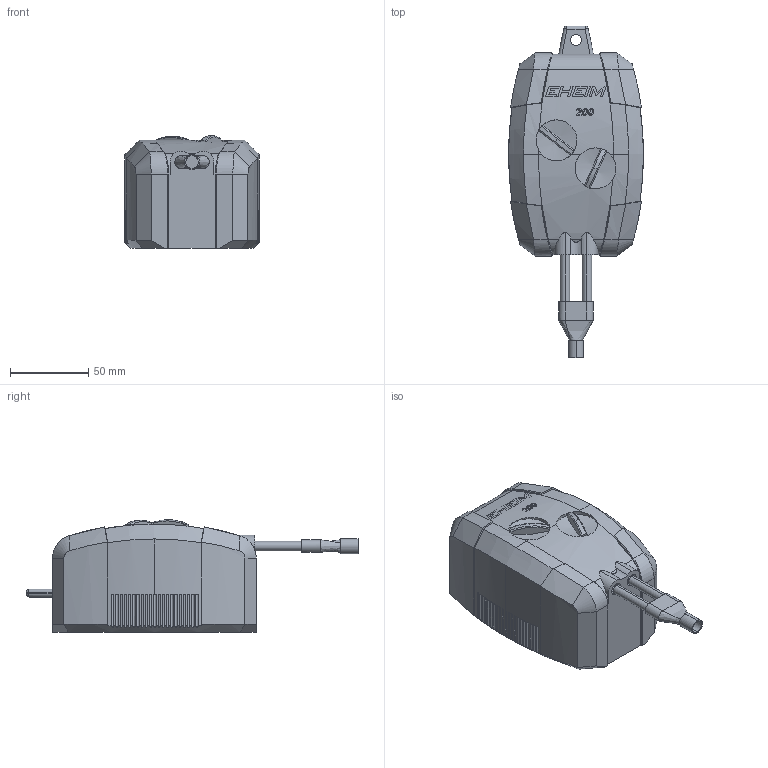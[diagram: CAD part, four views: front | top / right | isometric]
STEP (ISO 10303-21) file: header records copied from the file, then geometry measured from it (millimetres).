
FILE_DESCRIPTION (( 'STEP AP214' ), '1' );
FILE_NAME ('air pump aquarium.STEP', '2020-03-29T17:29:44', ( '' ), ( '' ), 'SwSTEP 2.0', 'SolidWorks 2018', '' );
FILE_SCHEMA (( 'AUTOMOTIVE_DESIGN' ));
Length unit declared in the file: millimetre
Products named in the file (1): air pump aquarium
Bounding box: 86 x 212 x 71.85 mm (x, y, z)
Volume: 660699.5 mm3; surface area: 49619 mm2
Topology: 3 solids, 6 shells, 311 faces, 852 edges, 566 vertices
Faces by surface type: cylinder 133, plane 94, bspline 74, sphere 4, torus 4, cone 2
Entity records: 17745 total; most frequent: CARTESIAN_POINT 9936, ORIENTED_EDGE 1696, DIRECTION 1148, EDGE_CURVE 848, VERTEX_POINT 566, AXIS2_PLACEMENT_3D 441, B_SPLINE_CURVE_WITH_KNOTS 337, EDGE_LOOP 332
